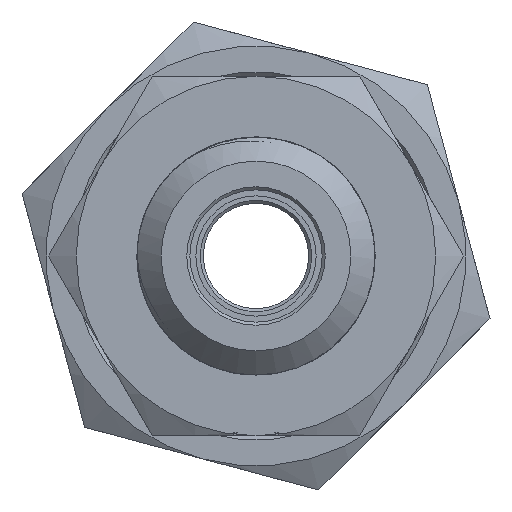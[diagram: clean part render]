
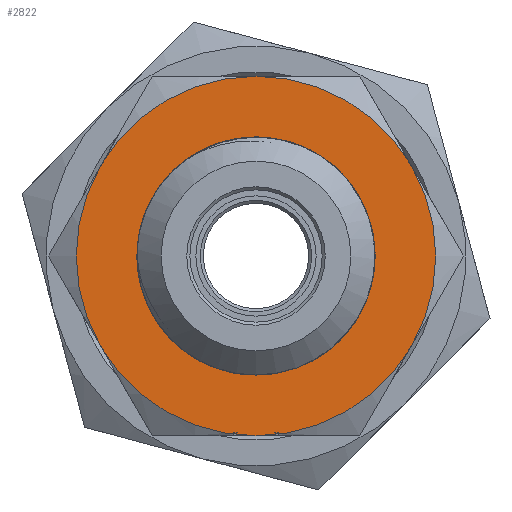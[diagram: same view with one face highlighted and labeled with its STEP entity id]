
A CAD part, front view. The second image highlights one B-rep face of the part: STEP entity #2822.
In plain terms, the highlighted planar face has unit normal (0, -1, 0) as drawn and (0, 0, 1) by its records, which use the part's own axes.
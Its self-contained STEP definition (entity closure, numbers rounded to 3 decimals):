
#104=FACE_BOUND('',#468,.T.);
#143=PLANE('',#3068);
#288=FACE_OUTER_BOUND('',#467,.T.);
#467=EDGE_LOOP('',(#2190,#2191,#2192,#2193,#2194,#2195));
#468=EDGE_LOOP('',(#2196));
#586=CIRCLE('',#3010,5.975);
#587=CIRCLE('',#3012,5.975);
#608=CIRCLE('',#3051,5.975);
#609=CIRCLE('',#3053,5.975);
#610=CIRCLE('',#3055,5.975);
#611=CIRCLE('',#3057,5.975);
#617=CIRCLE('',#3067,3.7);
#1197=VERTEX_POINT('',#5098);
#1198=VERTEX_POINT('',#5102);
#1201=VERTEX_POINT('',#5116);
#1224=VERTEX_POINT('',#7004);
#1226=VERTEX_POINT('',#7014);
#1228=VERTEX_POINT('',#7024);
#1233=VERTEX_POINT('',#7051);
#1513=EDGE_CURVE('',#1198,#1197,#586,.T.);
#1518=EDGE_CURVE('',#1197,#1201,#587,.T.);
#1565=EDGE_CURVE('',#1201,#1224,#608,.T.);
#1567=EDGE_CURVE('',#1226,#1198,#609,.T.);
#1570=EDGE_CURVE('',#1228,#1226,#610,.T.);
#1573=EDGE_CURVE('',#1224,#1228,#611,.T.);
#1582=EDGE_CURVE('',#1233,#1233,#617,.T.);
#2190=ORIENTED_EDGE('',*,*,#1570,.T.);
#2191=ORIENTED_EDGE('',*,*,#1567,.T.);
#2192=ORIENTED_EDGE('',*,*,#1513,.T.);
#2193=ORIENTED_EDGE('',*,*,#1518,.T.);
#2194=ORIENTED_EDGE('',*,*,#1565,.T.);
#2195=ORIENTED_EDGE('',*,*,#1573,.T.);
#2196=ORIENTED_EDGE('',*,*,#1582,.F.);
#2822=ADVANCED_FACE('',(#288,#104),#143,.F.);
#3010=AXIS2_PLACEMENT_3D('',#5103,#3434,#3435);
#3012=AXIS2_PLACEMENT_3D('',#5120,#3438,#3439);
#3051=AXIS2_PLACEMENT_3D('',#7008,#3523,#3524);
#3053=AXIS2_PLACEMENT_3D('',#7015,#3527,#3528);
#3055=AXIS2_PLACEMENT_3D('',#7025,#3531,#3532);
#3057=AXIS2_PLACEMENT_3D('',#7034,#3535,#3536);
#3067=AXIS2_PLACEMENT_3D('',#7053,#3557,#3558);
#3068=AXIS2_PLACEMENT_3D('',#7054,#3559,#3560);
#3434=DIRECTION('center_axis',(0.,0.,1.));
#3435=DIRECTION('ref_axis',(1.,0.,0.));
#3438=DIRECTION('center_axis',(0.,0.,1.));
#3439=DIRECTION('ref_axis',(1.,0.,0.));
#3523=DIRECTION('center_axis',(0.,0.,1.));
#3524=DIRECTION('ref_axis',(1.,0.,0.));
#3527=DIRECTION('center_axis',(0.,0.,1.));
#3528=DIRECTION('ref_axis',(1.,0.,0.));
#3531=DIRECTION('center_axis',(0.,0.,1.));
#3532=DIRECTION('ref_axis',(1.,0.,0.));
#3535=DIRECTION('center_axis',(0.,0.,1.));
#3536=DIRECTION('ref_axis',(1.,0.,0.));
#3557=DIRECTION('center_axis',(0.,0.,1.));
#3558=DIRECTION('ref_axis',(1.,0.,0.));
#3559=DIRECTION('center_axis',(0.,0.,-1.));
#3560=DIRECTION('ref_axis',(-1.,0.,0.));
#5098=CARTESIAN_POINT('',(-5.975,0.,14.75));
#5102=CARTESIAN_POINT('',(-2.988,5.175,14.75));
#5103=CARTESIAN_POINT('Origin',(0.,0.,14.75));
#5116=CARTESIAN_POINT('',(-2.988,-5.175,14.75));
#5120=CARTESIAN_POINT('Origin',(0.,0.,14.75));
#7004=CARTESIAN_POINT('',(2.987,-5.175,14.75));
#7008=CARTESIAN_POINT('Origin',(0.,0.,14.75));
#7014=CARTESIAN_POINT('',(2.988,5.175,14.75));
#7015=CARTESIAN_POINT('Origin',(0.,0.,14.75));
#7024=CARTESIAN_POINT('',(5.975,0.,14.75));
#7025=CARTESIAN_POINT('Origin',(0.,0.,14.75));
#7034=CARTESIAN_POINT('Origin',(0.,0.,14.75));
#7051=CARTESIAN_POINT('',(-3.7,0.,14.75));
#7053=CARTESIAN_POINT('Origin',(0.,0.,14.75));
#7054=CARTESIAN_POINT('Origin',(5.975,0.,14.75));
